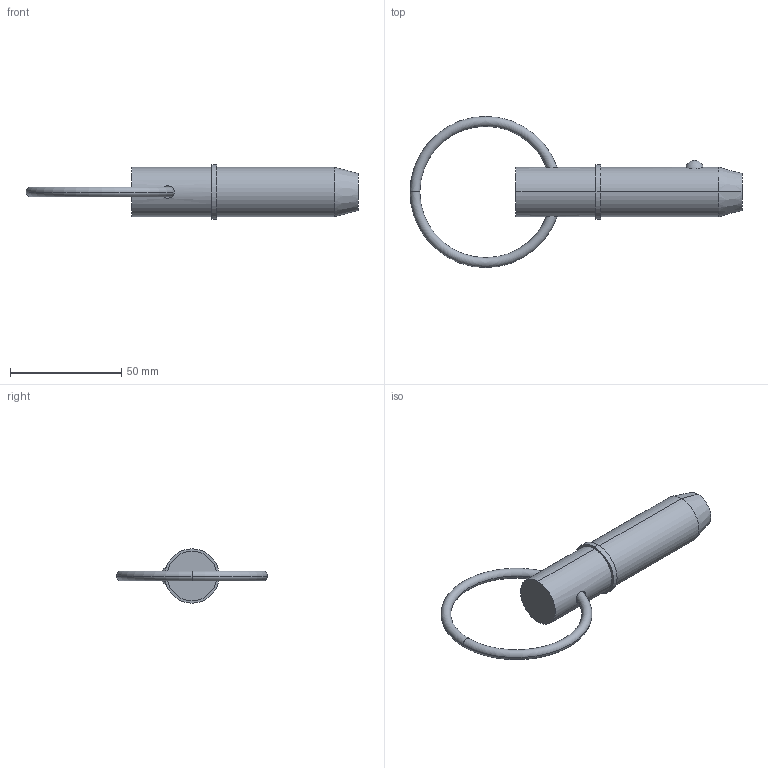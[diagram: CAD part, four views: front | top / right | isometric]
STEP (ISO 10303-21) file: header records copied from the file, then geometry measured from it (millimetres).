
FILE_DESCRIPTION (( 'STEP AP203' ), '1' );
FILE_NAME ('33016.W8815.step', '2024-11-07T11:16:00', ( '' ), ( '' ), 'SwSTEP 2.0', 'SolidWorks 2019', '' );
FILE_SCHEMA (( 'CONFIG_CONTROL_DESIGN' ));
Length unit declared in the file: millimetre
Products named in the file (3): 33016.W8815; Part1_33016.W8815; Part2_33016.W8815
Assembly tree (2 placements, depth 2):
  33016.W8815
    Part1_33016.W8815
    Part2_33016.W8815
Bounding box: 149.21 x 67.95 x 24.45 mm (x, y, z)
Volume: 41346.3 mm3; surface area: 10973.7 mm2
Topology: 2 solids, 2 shells, 22 faces, 43 edges, 26 vertices
Faces by surface type: torus 8, cylinder 6, plane 4, sphere 2, cone 2
Entity records: 1065 total; most frequent: CARTESIAN_POINT 288, DIRECTION 120, ORIENTED_EDGE 86, AXIS2_PLACEMENT_3D 56, EDGE_CURVE 43, CIRCLE 29, EDGE_LOOP 27, VERTEX_POINT 26
